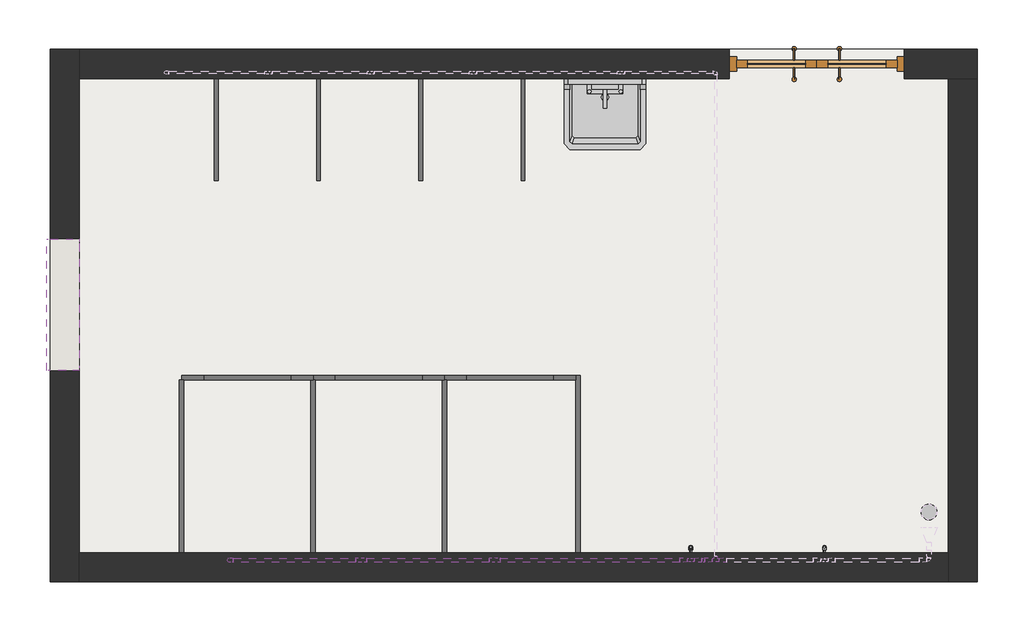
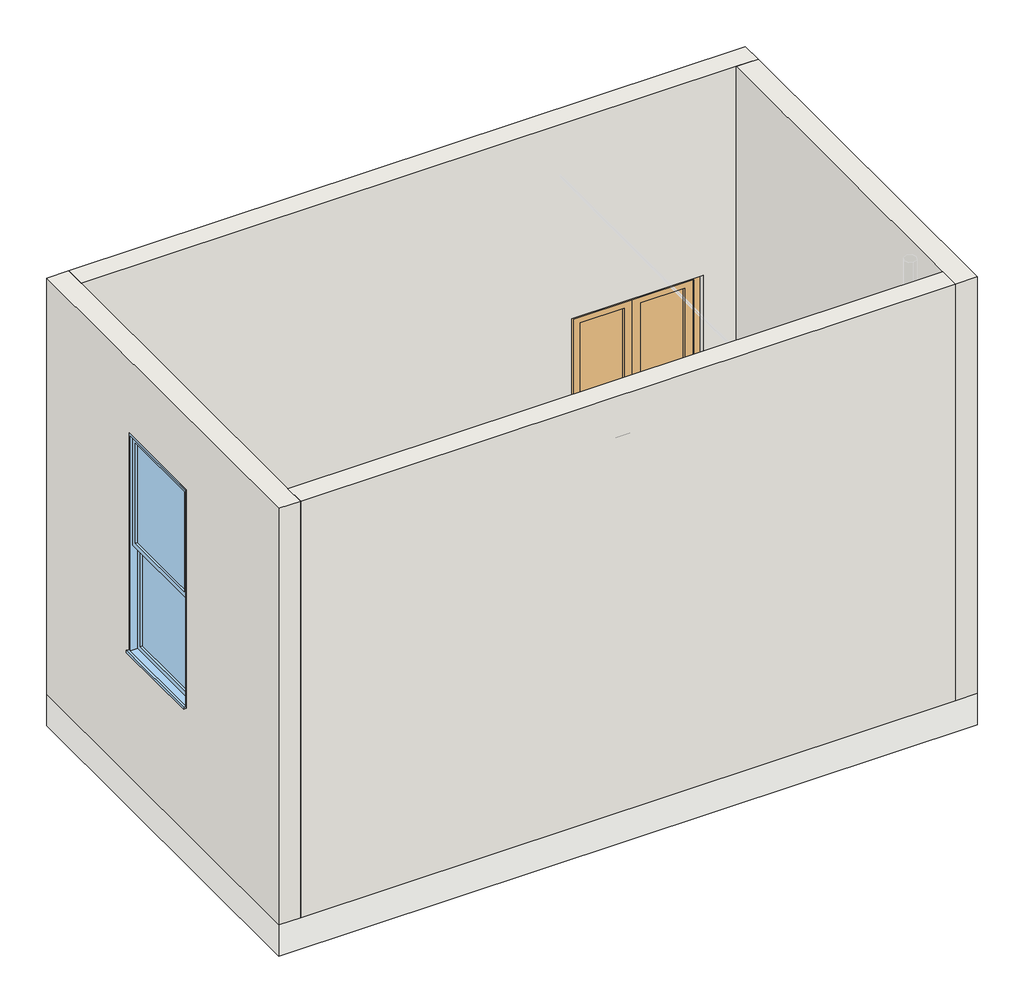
# One storey, part 1 of 2: 15 pipe segments, 14 pipe fittings, 8 proxies, 4 walls, 1 door, 1 flow terminal, 1 slab, 1 window.
"""IFC4 building model written with IfcOpenShell, lengths in millimetres."""

from ifc_helpers import new_model, si_unit, point, frame, frame_2d, origin, origin_with_axes, place, context, project, spatial, polyline, circle_curve, trimmed, segment, composite_curve, outline, extrude, faceted_brep, transform, mapped, element, save
from components import specialty_equipment_fa7288dd, specialty_equipment_3a5ac14c, proxy_20_x_300_x_1300mm_90f93d7e, door_1200_x_2100mm_28484c29, flow_terminal_560_mmx485_mm_975d8588, pipe_fitting_6e5039bf, pipe_fitting_1874c2ef, pipe_fitting_77111f3f, pipe_fitting_ec0e7028, pipe_fitting_cd75d731, pipe_fitting_eb17f4a4, window_900_x_2100mm_6ae3658a

model = new_model("IFC4")

# Units and contexts
model_context = context("Model", 3, world=origin())
ifc_project = project(units=[si_unit("LENGTHUNIT", "METRE", prefix="MILLI")], contexts=[model_context])

# Site, building, storey
site = spatial("IfcSite", under=ifc_project)
building = spatial("IfcBuilding", under=site)
storey = spatial("IfcBuildingStorey", under=building, Name="标高 1", Elevation=0.0)

# Proxies
placement = place(None, origin())
specialty_equipment_shape = specialty_equipment_fa7288dd(model_context)
element("IfcBuildingElementProxy", 1, Name="厕所隔断 1 3D : 中间或靠墙(落地)", ObjectType="厕所隔断 1 3D : 中间或靠墙(落地)", at=placement, inside=storey, context=model_context, shape_type="MappedRepresentation", body=[
    mapped(specialty_equipment_shape, transform((-14222.099061, -8689.1483569, 0.0), x_axis=(1.0, 0.0, 0.0), y_axis=(0.0, 1.0, 0.0), z_axis=(0.0, 0.0, 1.0))),
])
element("IfcBuildingElementProxy", 2, Name="厕所隔断 1 3D : 中间或靠墙(落地)", ObjectType="厕所隔断 1 3D : 中间或靠墙(落地)", at=placement, inside=storey, context=model_context, shape_type="MappedRepresentation", body=[
    mapped(specialty_equipment_shape, transform((-13322.099061, -8689.1483569, 0.0), x_axis=(1.0, 0.0, 0.0), y_axis=(0.0, 1.0, 0.0), z_axis=(0.0, 0.0, 1.0))),
])
element("IfcBuildingElementProxy", 3, Name="厕所隔断 1 3D : 中间或靠墙(落地)", ObjectType="厕所隔断 1 3D : 中间或靠墙(落地)", at=placement, inside=storey, context=model_context, shape_type="MappedRepresentation", body=[
    mapped(specialty_equipment_shape, transform((-12422.099061, -8689.1483569, 0.0), x_axis=(1.0, 0.0, 0.0), y_axis=(0.0, 1.0, 0.0), z_axis=(0.0, 0.0, 1.0))),
])
specialty_equipment_2_shape = specialty_equipment_3a5ac14c(model_context)
element("IfcBuildingElementProxy", 4, Name="厕所隔断 4 3D : 末端(落地)", ObjectType="厕所隔断 4 3D : 末端(落地)", at=placement, inside=storey, context=model_context, shape_type="MappedRepresentation", body=[
    mapped(specialty_equipment_2_shape, transform((-11507.099061, -8689.1483569, 0.0), x_axis=(1.0, 0.0, 0.0), y_axis=(0.0, 1.0, 0.0), z_axis=(0.0, 0.0, 1.0))),
])
proxy_20_x_300_x_1300mm_shape = proxy_20_x_300_x_1300mm_90f93d7e(model_context)
element("IfcBuildingElementProxy", 5, Name="盥洗室隔断 3 3D : 20 x 300 x 1300mm", ObjectType="盥洗室隔断 3 3D : 20 x 300 x 1300mm", at=placement, inside=storey, context=model_context, shape_type="MappedRepresentation", body=[
    mapped(proxy_20_x_300_x_1300mm_shape, transform((-14634.599061, -5239.1483569, 0.0), x_axis=(-1.0, 0.0, 0.0), y_axis=(0.0, -1.0, 0.0), z_axis=(0.0, 0.0, 1.0))),
])
element("IfcBuildingElementProxy", 6, Name="盥洗室隔断 3 3D : 20 x 300 x 1300mm", ObjectType="盥洗室隔断 3 3D : 20 x 300 x 1300mm", at=placement, inside=storey, context=model_context, shape_type="MappedRepresentation", body=[
    mapped(proxy_20_x_300_x_1300mm_shape, transform((-13934.599061, -5239.1483569, 0.0), x_axis=(-1.0, 0.0, 0.0), y_axis=(0.0, -1.0, 0.0), z_axis=(0.0, 0.0, 1.0))),
])
element("IfcBuildingElementProxy", 7, Name="盥洗室隔断 3 3D : 20 x 300 x 1300mm", ObjectType="盥洗室隔断 3 3D : 20 x 300 x 1300mm", at=placement, inside=storey, context=model_context, shape_type="MappedRepresentation", body=[
    mapped(proxy_20_x_300_x_1300mm_shape, transform((-13234.599061, -5239.1483569, 0.0), x_axis=(-1.0, 0.0, 0.0), y_axis=(0.0, -1.0, 0.0), z_axis=(0.0, 0.0, 1.0))),
])
element("IfcBuildingElementProxy", 8, Name="盥洗室隔断 3 3D : 20 x 300 x 1300mm", ObjectType="盥洗室隔断 3 3D : 20 x 300 x 1300mm", at=placement, inside=storey, context=model_context, shape_type="MappedRepresentation", body=[
    mapped(proxy_20_x_300_x_1300mm_shape, transform((-12534.599061, -5239.1483569, 0.0), x_axis=(-1.0, 0.0, 0.0), y_axis=(0.0, -1.0, 0.0), z_axis=(0.0, 0.0, 1.0))),
])

# Door
door_1200_x_2100mm_shape = door_1200_x_2100mm_28484c29(model_context)
element("IfcDoor", 9, ObjectType="双面嵌板玻璃门 : 1200 x 2100mm", at=placement, inside=storey, context=model_context, shape_type="MappedRepresentation", body=[
    mapped(door_1200_x_2100mm_shape, transform((-10647.099061, -5239.1483569, 0.0), x_axis=(-1.0, 0.0, 0.0), y_axis=(0.0, -1.0, 0.0), z_axis=(0.0, 0.0, 1.0))),
])

# Flow terminal
flow_terminal_560_mmx485_mm_shape = flow_terminal_560_mmx485_mm_975d8588(model_context)
element("IfcFlowTerminal", 10, ObjectType="洗涤池 - 服务用 : 560 mmx485 mm", at=placement, inside=storey, context=model_context, shape_type="MappedRepresentation", body=[
    mapped(flow_terminal_560_mmx485_mm_shape, transform((-12097.099061, -5339.1483569, 800.0), x_axis=(1.0, 0.0, 0.0), y_axis=(0.0, 0.0, 1.0), z_axis=(0.0, -1.0, 0.0))),
])

# Pipe fittings
pipe_fitting_shape = pipe_fitting_6e5039bf(model_context)
element("IfcPipeFitting", 11, ObjectType="弯头 - 常规 : 标准", at=placement, inside=storey, context=model_context, shape_type="MappedRepresentation", body=[
    mapped(pipe_fitting_shape, transform((-14667.099061, -8639.5483467, 850.0), x_axis=(0.0, -1.0, 0.0), y_axis=(0.0, 0.0, 1.0), z_axis=(-1.0, 0.0, 0.0))),
])
element("IfcPipeFitting", 12, ObjectType="弯头 - 常规 : 标准", at=placement, inside=storey, context=model_context, shape_type="MappedRepresentation", body=[
    mapped(pipe_fitting_shape, transform((-14667.099061, -8639.5483467, 3500.0), x_axis=(0.0, 0.0, 1.0), y_axis=(1.0, 0.0, 0.0), z_axis=(0.0, 1.0, 0.0))),
])
element("IfcPipeFitting", 13, ObjectType="弯头 - 常规 : 标准", at=placement, inside=storey, context=model_context, shape_type="MappedRepresentation", body=[
    mapped(pipe_fitting_shape, transform((-13767.099061, -8639.5483467, 850.0), x_axis=(0.0, -1.0, 0.0), y_axis=(0.0, 0.0, 1.0), z_axis=(-1.0, 0.0, 0.0))),
])
element("IfcPipeFitting", 14, ObjectType="弯头 - 常规 : 标准", at=placement, inside=storey, context=model_context, shape_type="MappedRepresentation", body=[
    mapped(pipe_fitting_shape, transform((-12852.099061, -8639.5483467, 850.0), x_axis=(0.0, -1.0, 0.0), y_axis=(0.0, 0.0, 1.0), z_axis=(-1.0, 0.0, 0.0))),
])
pipe_fitting_2_shape = pipe_fitting_1874c2ef(model_context)
element("IfcPipeFitting", 15, ObjectType="T 形三通 - 常规 : 标准", at=placement, inside=storey, context=model_context, shape_type="MappedRepresentation", body=[
    mapped(pipe_fitting_2_shape, transform((-11510.399061, -8639.5483467, 3500.0), x_axis=(1.0, 0.0, 0.0), y_axis=(0.0, 0.0, 1.0), z_axis=(0.0, -1.0, 0.0))),
])
element("IfcPipeFitting", 16, ObjectType="T 形三通 - 常规 : 标准", at=placement, inside=storey, context=model_context, shape_type="MappedRepresentation", body=[
    mapped(pipe_fitting_2_shape, transform((-11339.149053, -8639.5483467, 3500.0), x_axis=(1.0, 0.0, 0.0), y_axis=(0.0, -1.0, 0.0), z_axis=(0.0, 0.0, -1.0))),
])
pipe_fitting_3_shape = pipe_fitting_77111f3f(model_context)
element("IfcPipeFitting", 17, ObjectType="弯头 - 常规 : 标准", at=placement, inside=storey, context=model_context, shape_type="MappedRepresentation", body=[
    mapped(pipe_fitting_3_shape, transform((-11510.399061, -8639.5483467, 575.95), x_axis=(0.0, 0.0, -1.0), y_axis=(0.0, 1.0, 0.0), z_axis=(1.0, 0.0, 0.0))),
])
element("IfcPipeFitting", 18, ObjectType="弯头 - 常规 : 标准", at=placement, inside=storey, context=model_context, shape_type="MappedRepresentation", body=[
    mapped(pipe_fitting_3_shape, transform((-11510.399061, -8551.0483569, 575.95), x_axis=(0.0, 0.0, -1.0), y_axis=(0.0, -1.0, 0.0), z_axis=(-1.0, 0.0, 0.0))),
])
pipe_fitting_4_shape = pipe_fitting_ec0e7028(model_context)
element("IfcPipeFitting", 19, ObjectType="T 形三通 - 常规 : 标准", at=placement, inside=storey, context=model_context, shape_type="MappedRepresentation", body=[
    mapped(pipe_fitting_4_shape, transform((-13767.099061, -8639.5483467, 3500.0), x_axis=(1.0, 0.0, 0.0), y_axis=(0.0, 0.0, 1.0), z_axis=(0.0, -1.0, 0.0))),
])
element("IfcPipeFitting", 20, ObjectType="T 形三通 - 常规 : 标准", at=placement, inside=storey, context=model_context, shape_type="MappedRepresentation", body=[
    mapped(pipe_fitting_4_shape, transform((-12852.099061, -8639.5483467, 3500.0), x_axis=(-1.0, 0.0, 0.0), y_axis=(0.0, 0.0, 1.0), z_axis=(0.0, 1.0, 0.0))),
])
pipe_fitting_5_shape = pipe_fitting_cd75d731(model_context)
element("IfcPipeFitting", 21, ObjectType="过渡件 - 常规 : 标准", at=placement, inside=storey, context=model_context, shape_type="MappedRepresentation", body=[
    mapped(pipe_fitting_5_shape, transform((-11535.399061, -8639.5483467, 3500.0), x_axis=(-1.0, 0.0, 0.0), y_axis=(0.0, -1.0, 0.0), z_axis=(0.0, 0.0, 1.0))),
])
element("IfcPipeFitting", 22, ObjectType="过渡件 - 常规 : 标准", at=placement, inside=storey, context=model_context, shape_type="MappedRepresentation", body=[
    mapped(pipe_fitting_5_shape, transform((-11314.149053, -8639.5483467, 3500.0), x_axis=(1.0, 0.0, 0.0), y_axis=(0.0, 1.0, 0.0), z_axis=(0.0, 0.0, 1.0))),
])
element("IfcPipeFitting", 23, ObjectType="过渡件 - 常规 : 标准", at=placement, inside=storey, context=model_context, shape_type="MappedRepresentation", body=[
    mapped(pipe_fitting_5_shape, transform((-11364.149053, -8639.5483467, 3500.0), x_axis=(-1.0, 0.0, 0.0), y_axis=(0.0, -1.0, 0.0), z_axis=(0.0, 0.0, 1.0))),
])
pipe_fitting_6_shape = pipe_fitting_eb17f4a4(model_context)
element("IfcPipeFitting", 24, ObjectType="过渡件 - 常规 : 标准", at=placement, inside=storey, context=model_context, shape_type="MappedRepresentation", body=[
    mapped(pipe_fitting_6_shape, transform((-11485.399061, -8639.5483467, 3500.0), x_axis=(1.0, 0.0, 0.0), y_axis=(0.0, 1.0, 0.0), z_axis=(0.0, 0.0, 1.0))),
])

# Pipe segments
element("IfcPipeSegment", 25, ObjectType="标准", at=placement, inside=storey, context=model_context, shape_type="SweptSolid", body=[
    extrude(outline(composite_curve([segment(trimmed(circle_curve(frame_2d((-8639.5483467, 3500.0)), 14.0), [point((-8625.5483467, 3500.0))], [point((-8639.5483467, 3486.0))], False, "CARTESIAN"), True, "CONTINUOUS"), segment(trimmed(circle_curve(frame_2d((-8639.5483467, 3500.0)), 14.0), [point((-8639.5483467, 3486.0))], [point((-8653.5483467, 3500.0))], False, "CARTESIAN"), True, "CONTINUOUS"), segment(trimmed(circle_curve(frame_2d((-8639.5483467, 3500.0)), 14.0), [point((-8653.5483467, 3500.0))], [point((-8639.5483467, 3514.0))], False, "CARTESIAN"), True, "CONTINUOUS"), segment(trimmed(circle_curve(frame_2d((-8639.5483467, 3500.0)), 14.0), [point((-8639.5483467, 3514.0))], [point((-8625.5483467, 3500.0))], False, "CARTESIAN"), True, "CONTINUOUS")], self_intersect=False)), frame((-13729.099061, 0.0, 0.0), z_axis=(1.0, 0.0, 0.0), x_axis=(0.0, 1.0, 0.0)), (0.0, 0.0, 1.0), 839.0),
])
element("IfcPipeSegment", 26, ObjectType="标准", at=placement, inside=storey, context=model_context, shape_type="SweptSolid", body=[
    extrude(outline(composite_curve([segment(trimmed(circle_curve(frame_2d((850.0, -14667.099061)), 14.0), [point((850.0, -14681.099061))], [point((836.0, -14667.099061))], False, "CARTESIAN"), True, "CONTINUOUS"), segment(trimmed(circle_curve(frame_2d((850.0, -14667.099061)), 14.0), [point((836.0, -14667.099061))], [point((850.0, -14653.099061))], False, "CARTESIAN"), True, "CONTINUOUS"), segment(trimmed(circle_curve(frame_2d((850.0, -14667.099061)), 14.0), [point((850.0, -14653.099061))], [point((864.0, -14667.099061))], False, "CARTESIAN"), True, "CONTINUOUS"), segment(trimmed(circle_curve(frame_2d((850.0, -14667.099061)), 14.0), [point((864.0, -14667.099061))], [point((850.0, -14681.099061))], False, "CARTESIAN"), True, "CONTINUOUS")], self_intersect=False)), frame((0.0, -8614.5483467, 0.0), z_axis=(0.0, 1.0, 0.0), x_axis=(0.0, 0.0, 1.0)), (0.0, 0.0, 1.0), 25.3999898),
])
element("IfcPipeSegment", 27, ObjectType="标准", at=placement, inside=storey, context=model_context, shape_type="SweptSolid", body=[
    extrude(outline(composite_curve([segment(trimmed(circle_curve(frame_2d((-14667.099061, -8639.5483467)), 14.0), [point((-14681.099061, -8639.5483467))], [point((-14667.099061, -8625.5483467))], False, "CARTESIAN"), True, "CONTINUOUS"), segment(trimmed(circle_curve(frame_2d((-14667.099061, -8639.5483467)), 14.0), [point((-14667.099061, -8625.5483467))], [point((-14653.099061, -8639.5483467))], False, "CARTESIAN"), True, "CONTINUOUS"), segment(trimmed(circle_curve(frame_2d((-14667.099061, -8639.5483467)), 14.0), [point((-14653.099061, -8639.5483467))], [point((-14667.099061, -8653.5483467))], False, "CARTESIAN"), True, "CONTINUOUS"), segment(trimmed(circle_curve(frame_2d((-14667.099061, -8639.5483467)), 14.0), [point((-14667.099061, -8653.5483467))], [point((-14681.099061, -8639.5483467))], False, "CARTESIAN"), True, "CONTINUOUS")], self_intersect=False)), frame((0.0, 0.0, 875.0), z_axis=(0.0, 0.0, 1.0), x_axis=(1.0, 0.0, 0.0)), (0.0, 0.0, 1.0), 2600.0),
])
element("IfcPipeSegment", 28, ObjectType="标准", at=placement, inside=storey, context=model_context, shape_type="SweptSolid", body=[
    extrude(outline(composite_curve([segment(trimmed(circle_curve(frame_2d((-8639.5483467, 3500.0)), 14.0), [point((-8653.5483467, 3500.0))], [point((-8639.5483467, 3514.0))], False, "CARTESIAN"), True, "CONTINUOUS"), segment(trimmed(circle_curve(frame_2d((-8639.5483467, 3500.0)), 14.0), [point((-8639.5483467, 3514.0))], [point((-8625.5483467, 3500.0))], False, "CARTESIAN"), True, "CONTINUOUS"), segment(trimmed(circle_curve(frame_2d((-8639.5483467, 3500.0)), 14.0), [point((-8625.5483467, 3500.0))], [point((-8639.5483467, 3486.0))], False, "CARTESIAN"), True, "CONTINUOUS"), segment(trimmed(circle_curve(frame_2d((-8639.5483467, 3500.0)), 14.0), [point((-8639.5483467, 3486.0))], [point((-8653.5483467, 3500.0))], False, "CARTESIAN"), True, "CONTINUOUS")], self_intersect=False)), frame((-14642.099061, 0.0, 0.0), z_axis=(1.0, 0.0, 0.0), x_axis=(0.0, 1.0, 0.0)), (0.0, 0.0, 1.0), 837.0),
])
element("IfcPipeSegment", 29, ObjectType="标准", at=placement, inside=storey, context=model_context, shape_type="SweptSolid", body=[
    extrude(outline(composite_curve([segment(trimmed(circle_curve(frame_2d((850.0, -13767.099061)), 14.0), [point((850.0, -13781.099061))], [point((836.0, -13767.099061))], False, "CARTESIAN"), True, "CONTINUOUS"), segment(trimmed(circle_curve(frame_2d((850.0, -13767.099061)), 14.0), [point((836.0, -13767.099061))], [point((850.0, -13753.099061))], False, "CARTESIAN"), True, "CONTINUOUS"), segment(trimmed(circle_curve(frame_2d((850.0, -13767.099061)), 14.0), [point((850.0, -13753.099061))], [point((864.0, -13767.099061))], False, "CARTESIAN"), True, "CONTINUOUS"), segment(trimmed(circle_curve(frame_2d((850.0, -13767.099061)), 14.0), [point((864.0, -13767.099061))], [point((850.0, -13781.099061))], False, "CARTESIAN"), True, "CONTINUOUS")], self_intersect=False)), frame((0.0, -8614.5483467, 0.0), z_axis=(0.0, 1.0, 0.0), x_axis=(0.0, 0.0, 1.0)), (0.0, 0.0, 1.0), 25.3999898),
])
element("IfcPipeSegment", 30, ObjectType="标准", at=placement, inside=storey, context=model_context, shape_type="SweptSolid", body=[
    extrude(outline(composite_curve([segment(trimmed(circle_curve(frame_2d((-13767.099061, -8639.5483467)), 14.0), [point((-13781.099061, -8639.5483467))], [point((-13767.099061, -8625.5483467))], False, "CARTESIAN"), True, "CONTINUOUS"), segment(trimmed(circle_curve(frame_2d((-13767.099061, -8639.5483467)), 14.0), [point((-13767.099061, -8625.5483467))], [point((-13753.099061, -8639.5483467))], False, "CARTESIAN"), True, "CONTINUOUS"), segment(trimmed(circle_curve(frame_2d((-13767.099061, -8639.5483467)), 14.0), [point((-13753.099061, -8639.5483467))], [point((-13767.099061, -8653.5483467))], False, "CARTESIAN"), True, "CONTINUOUS"), segment(trimmed(circle_curve(frame_2d((-13767.099061, -8639.5483467)), 14.0), [point((-13767.099061, -8653.5483467))], [point((-13781.099061, -8639.5483467))], False, "CARTESIAN"), True, "CONTINUOUS")], self_intersect=False)), frame((0.0, 0.0, 875.0), z_axis=(0.0, 0.0, 1.0), x_axis=(1.0, 0.0, 0.0)), (0.0, 0.0, 1.0), 2587.0),
])
element("IfcPipeSegment", 31, ObjectType="标准", at=placement, inside=storey, context=model_context, shape_type="SweptSolid", body=[
    extrude(outline(composite_curve([segment(trimmed(circle_curve(frame_2d((850.0, -12852.099061)), 14.0), [point((850.0, -12866.099061))], [point((836.0, -12852.099061))], False, "CARTESIAN"), True, "CONTINUOUS"), segment(trimmed(circle_curve(frame_2d((850.0, -12852.099061)), 14.0), [point((836.0, -12852.099061))], [point((850.0, -12838.099061))], False, "CARTESIAN"), True, "CONTINUOUS"), segment(trimmed(circle_curve(frame_2d((850.0, -12852.099061)), 14.0), [point((850.0, -12838.099061))], [point((864.0, -12852.099061))], False, "CARTESIAN"), True, "CONTINUOUS"), segment(trimmed(circle_curve(frame_2d((850.0, -12852.099061)), 14.0), [point((864.0, -12852.099061))], [point((850.0, -12866.099061))], False, "CARTESIAN"), True, "CONTINUOUS")], self_intersect=False)), frame((0.0, -8614.5483467, 0.0), z_axis=(0.0, 1.0, 0.0), x_axis=(0.0, 0.0, 1.0)), (0.0, 0.0, 1.0), 25.3999898),
])
element("IfcPipeSegment", 32, ObjectType="标准", at=placement, inside=storey, context=model_context, shape_type="SweptSolid", body=[
    extrude(outline(composite_curve([segment(trimmed(circle_curve(frame_2d((-12852.099061, -8639.5483467)), 14.0), [point((-12838.099061, -8639.5483467))], [point((-12852.099061, -8653.5483467))], False, "CARTESIAN"), True, "CONTINUOUS"), segment(trimmed(circle_curve(frame_2d((-12852.099061, -8639.5483467)), 14.0), [point((-12852.099061, -8653.5483467))], [point((-12866.099061, -8639.5483467))], False, "CARTESIAN"), True, "CONTINUOUS"), segment(trimmed(circle_curve(frame_2d((-12852.099061, -8639.5483467)), 14.0), [point((-12866.099061, -8639.5483467))], [point((-12852.099061, -8625.5483467))], False, "CARTESIAN"), True, "CONTINUOUS"), segment(trimmed(circle_curve(frame_2d((-12852.099061, -8639.5483467)), 14.0), [point((-12852.099061, -8625.5483467))], [point((-12838.099061, -8639.5483467))], False, "CARTESIAN"), True, "CONTINUOUS")], self_intersect=False)), frame((0.0, 0.0, 875.0), z_axis=(0.0, 0.0, 1.0), x_axis=(1.0, 0.0, 0.0)), (0.0, 0.0, 1.0), 2587.0),
])
element("IfcPipeSegment", 33, ObjectType="标准", at=placement, inside=storey, context=model_context, shape_type="SweptSolid", body=[
    extrude(outline(composite_curve([segment(trimmed(circle_curve(frame_2d((-8639.5483467, 3500.0)), 14.0), [point((-8625.5483467, 3500.0))], [point((-8639.5483467, 3486.0))], False, "CARTESIAN"), True, "CONTINUOUS"), segment(trimmed(circle_curve(frame_2d((-8639.5483467, 3500.0)), 14.0), [point((-8639.5483467, 3486.0))], [point((-8653.5483467, 3500.0))], False, "CARTESIAN"), True, "CONTINUOUS"), segment(trimmed(circle_curve(frame_2d((-8639.5483467, 3500.0)), 14.0), [point((-8653.5483467, 3500.0))], [point((-8639.5483467, 3514.0))], False, "CARTESIAN"), True, "CONTINUOUS"), segment(trimmed(circle_curve(frame_2d((-8639.5483467, 3500.0)), 14.0), [point((-8639.5483467, 3514.0))], [point((-8625.5483467, 3500.0))], False, "CARTESIAN"), True, "CONTINUOUS")], self_intersect=False)), frame((-12814.099061, 0.0, 0.0), z_axis=(1.0, 0.0, 0.0), x_axis=(0.0, 1.0, 0.0)), (0.0, 0.0, 1.0), 1227.7),
])
element("IfcPipeSegment", 34, ObjectType="标准", at=placement, inside=storey, context=model_context, shape_type="SweptSolid", body=[
    extrude(outline(composite_curve([segment(trimmed(circle_curve(frame_2d((-11510.399061, -8551.0483569)), 7.5), [point((-11502.899061, -8551.0483569))], [point((-11510.399061, -8558.5483569))], False, "CARTESIAN"), True, "CONTINUOUS"), segment(trimmed(circle_curve(frame_2d((-11510.399061, -8551.0483569)), 7.5), [point((-11510.399061, -8558.5483569))], [point((-11517.899061, -8551.0483569))], False, "CARTESIAN"), True, "CONTINUOUS"), segment(trimmed(circle_curve(frame_2d((-11510.399061, -8551.0483569)), 7.5), [point((-11517.899061, -8551.0483569))], [point((-11510.399061, -8543.5483569))], False, "CARTESIAN"), True, "CONTINUOUS"), segment(trimmed(circle_curve(frame_2d((-11510.399061, -8551.0483569)), 7.5), [point((-11510.399061, -8543.5483569))], [point((-11502.899061, -8551.0483569))], False, "CARTESIAN"), True, "CONTINUOUS")], self_intersect=False)), frame((0.0, 0.0, 591.8589844), z_axis=(0.0, 0.0, 1.0), x_axis=(1.0, 0.0, 0.0)), (0.0, 0.0, 1.0), 189.0910156),
])
element("IfcPipeSegment", 35, ObjectType="标准", at=placement, inside=storey, context=model_context, shape_type="SweptSolid", body=[
    extrude(outline(composite_curve([segment(trimmed(circle_curve(frame_2d((-10595.399061, -8551.0483569)), 7.5), [point((-10587.899061, -8551.0483569))], [point((-10595.399061, -8558.5483569))], False, "CARTESIAN"), True, "CONTINUOUS"), segment(trimmed(circle_curve(frame_2d((-10595.399061, -8551.0483569)), 7.5), [point((-10595.399061, -8558.5483569))], [point((-10602.899061, -8551.0483569))], False, "CARTESIAN"), True, "CONTINUOUS"), segment(trimmed(circle_curve(frame_2d((-10595.399061, -8551.0483569)), 7.5), [point((-10602.899061, -8551.0483569))], [point((-10595.399061, -8543.5483569))], False, "CARTESIAN"), True, "CONTINUOUS"), segment(trimmed(circle_curve(frame_2d((-10595.399061, -8551.0483569)), 7.5), [point((-10595.399061, -8543.5483569))], [point((-10587.899061, -8551.0483569))], False, "CARTESIAN"), True, "CONTINUOUS")], self_intersect=False)), frame((0.0, 0.0, 591.8589844), z_axis=(0.0, 0.0, 1.0), x_axis=(1.0, 0.0, 0.0)), (0.0, 0.0, 1.0), 189.0910156),
])
element("IfcPipeSegment", 36, ObjectType="标准", at=placement, inside=storey, context=model_context, shape_type="SweptSolid", body=[
    extrude(outline(composite_curve([segment(trimmed(circle_curve(frame_2d((575.95, -11510.399061)), 7.5), [point((575.95, -11502.899061))], [point((583.45, -11510.399061))], False, "CARTESIAN"), True, "CONTINUOUS"), segment(trimmed(circle_curve(frame_2d((575.95, -11510.399061)), 7.5), [point((583.45, -11510.399061))], [point((575.95, -11517.899061))], False, "CARTESIAN"), True, "CONTINUOUS"), segment(trimmed(circle_curve(frame_2d((575.95, -11510.399061)), 7.5), [point((575.95, -11517.899061))], [point((568.45, -11510.399061))], False, "CARTESIAN"), True, "CONTINUOUS"), segment(trimmed(circle_curve(frame_2d((575.95, -11510.399061)), 7.5), [point((568.45, -11510.399061))], [point((575.95, -11502.899061))], False, "CARTESIAN"), True, "CONTINUOUS")], self_intersect=False)), frame((0.0, -8623.6393623, 0.0), z_axis=(0.0, 1.0, 0.0), x_axis=(0.0, 0.0, 1.0)), (0.0, 0.0, 1.0), 56.6820211),
])
element("IfcPipeSegment", 37, ObjectType="标准", at=placement, inside=storey, context=model_context, shape_type="SweptSolid", body=[
    extrude(outline(composite_curve([segment(trimmed(circle_curve(frame_2d((575.95, -10595.399061)), 7.5), [point((575.95, -10587.899061))], [point((583.45, -10595.399061))], False, "CARTESIAN"), True, "CONTINUOUS"), segment(trimmed(circle_curve(frame_2d((575.95, -10595.399061)), 7.5), [point((583.45, -10595.399061))], [point((575.95, -10602.899061))], False, "CARTESIAN"), True, "CONTINUOUS"), segment(trimmed(circle_curve(frame_2d((575.95, -10595.399061)), 7.5), [point((575.95, -10602.899061))], [point((568.45, -10595.399061))], False, "CARTESIAN"), True, "CONTINUOUS"), segment(trimmed(circle_curve(frame_2d((575.95, -10595.399061)), 7.5), [point((568.45, -10595.399061))], [point((575.95, -10587.899061))], False, "CARTESIAN"), True, "CONTINUOUS")], self_intersect=False)), frame((0.0, -8623.6393623, 0.0), z_axis=(0.0, 1.0, 0.0), x_axis=(0.0, 0.0, 1.0)), (0.0, 0.0, 1.0), 56.6820211),
])
element("IfcPipeSegment", 38, ObjectType="标准", at=placement, inside=storey, context=model_context, shape_type="SweptSolid", body=[
    extrude(outline(composite_curve([segment(trimmed(circle_curve(frame_2d((-11510.399061, -8639.5483467)), 7.5), [point((-11502.899061, -8639.5483467))], [point((-11510.399061, -8647.0483467))], False, "CARTESIAN"), True, "CONTINUOUS"), segment(trimmed(circle_curve(frame_2d((-11510.399061, -8639.5483467)), 7.5), [point((-11510.399061, -8647.0483467))], [point((-11517.899061, -8639.5483467))], False, "CARTESIAN"), True, "CONTINUOUS"), segment(trimmed(circle_curve(frame_2d((-11510.399061, -8639.5483467)), 7.5), [point((-11517.899061, -8639.5483467))], [point((-11510.399061, -8632.0483467))], False, "CARTESIAN"), True, "CONTINUOUS"), segment(trimmed(circle_curve(frame_2d((-11510.399061, -8639.5483467)), 7.5), [point((-11510.399061, -8632.0483467))], [point((-11502.899061, -8639.5483467))], False, "CARTESIAN"), True, "CONTINUOUS")], self_intersect=False)), frame((0.0, 0.0, 591.8589844), z_axis=(0.0, 0.0, 1.0), x_axis=(1.0, 0.0, 0.0)), (0.0, 0.0, 1.0), 2883.1410156),
])
element("IfcPipeSegment", 39, ObjectType="标准", at=placement, inside=storey, context=model_context, shape_type="SweptSolid", body=[
    extrude(outline(composite_curve([segment(trimmed(circle_curve(frame_2d((-8639.5483467, 3500.0)), 14.0), [point((-8625.5483467, 3500.0))], [point((-8639.5483467, 3486.0))], False, "CARTESIAN"), True, "CONTINUOUS"), segment(trimmed(circle_curve(frame_2d((-8639.5483467, 3500.0)), 14.0), [point((-8639.5483467, 3486.0))], [point((-8653.5483467, 3500.0))], False, "CARTESIAN"), True, "CONTINUOUS"), segment(trimmed(circle_curve(frame_2d((-8639.5483467, 3500.0)), 14.0), [point((-8653.5483467, 3500.0))], [point((-8639.5483467, 3514.0))], False, "CARTESIAN"), True, "CONTINUOUS"), segment(trimmed(circle_curve(frame_2d((-8639.5483467, 3500.0)), 14.0), [point((-8639.5483467, 3514.0))], [point((-8625.5483467, 3500.0))], False, "CARTESIAN"), True, "CONTINUOUS")], self_intersect=False)), frame((-11434.399061, 0.0, 0.0), z_axis=(1.0, 0.0, 0.0), x_axis=(0.0, 1.0, 0.0)), (0.0, 0.0, 1.0), 19.250008),
])

# Slab
element("IfcSlab", 40, ObjectType="常规 - 300mm", at=placement, inside=storey, context=model_context, shape_type="SweptSolid", body=[
    extrude(outline(polyline([(-15897.099061, -5139.1483569), (-9547.099061, -5139.1483569), (-9547.099061, -8789.1483569), (-15897.099061, -8789.1483569), (-15897.099061, -5139.1483569)])), frame((0.0, 0.0, -300.0), z_axis=(0.0, 0.0, 1.0), x_axis=(1.0, 0.0, 0.0)), (0.0, 0.0, 1.0), 300.0),
])

# Walls
element("IfcWall", 41, ObjectType="常规 - 200mm", at=placement, inside=storey, context=model_context, shape_type="Brep", body=[
    faceted_brep([(-15697.099061, -8789.1483569, 0.0), (-15697.099061, -8589.1483569, 0.0), (-15697.099061, -5339.1483569, 0.0), (-15697.099061, -5139.1483569, 0.0), (-15697.099061, -5139.1483569, 4000.0), (-15697.099061, -5339.1483569, 4000.0), (-15697.099061, -8589.1483569, 4000.0), (-15697.099061, -8789.1483569, 4000.0), (-15697.099061, -6439.1483569, 3300.0), (-15697.099061, -6439.1483569, 1200.0), (-15697.099061, -7339.1483569, 1200.0), (-15697.099061, -7339.1483569, 3300.0), (-15897.099061, -8789.1483569, 0.0), (-15897.099061, -8789.1483569, 4000.0), (-15897.099061, -5139.1483569, 4000.0), (-15897.099061, -5139.1483569, 0.0), (-15897.099061, -6439.1483569, 3300.0), (-15897.099061, -7339.1483569, 3300.0), (-15897.099061, -7339.1483569, 1200.0), (-15897.099061, -6439.1483569, 1200.0)], [[[0, 1, 2, 3, 4, 5, 6, 7], [8, 9, 10, 11]], [[12, 13, 14, 15], [16, 17, 18, 19]], [[3, 2, 1, 0, 12, 15]], [[7, 6, 5, 4, 14, 13]], [[4, 3, 15, 14]], [[0, 7, 13, 12]], [[9, 8, 16, 19]], [[10, 9, 19, 18]], [[11, 10, 18, 17]], [[8, 11, 17, 16]]]),
])
element("IfcWall", 42, ObjectType="常规 - 200mm", at=placement, inside=storey, context=model_context, shape_type="Brep", body=[
    faceted_brep([(-9547.099061, -5339.1483569, 4000.0), (-9747.099061, -5339.1483569, 4000.0), (-15697.099061, -5339.1483569, 4000.0), (-15697.099061, -5339.1483569, 0.0), (-11247.099061, -5339.1483569, 0.0), (-11247.099061, -5339.1483569, 2100.0), (-10047.099061, -5339.1483569, 2100.0), (-10047.099061, -5339.1483569, 0.0), (-9747.099061, -5339.1483569, 0.0), (-9547.099061, -5339.1483569, 0.0), (-15697.099061, -5139.1483569, 4000.0), (-9547.099061, -5139.1483569, 4000.0), (-9547.099061, -5139.1483569, 0.0), (-10047.099061, -5139.1483569, 0.0), (-10047.099061, -5139.1483569, 2100.0), (-11247.099061, -5139.1483569, 2100.0), (-11247.099061, -5139.1483569, 0.0), (-15697.099061, -5139.1483569, 0.0)], [[[0, 1, 2, 3, 4, 5, 6, 7, 8, 9]], [[10, 11, 12, 13, 14, 15, 16, 17]], [[3, 17, 16, 4]], [[12, 9, 8, 7, 13]], [[2, 1, 0, 11, 10]], [[3, 2, 10, 17]], [[0, 9, 12, 11]], [[15, 5, 4, 16]], [[5, 15, 14, 6]], [[6, 14, 13, 7]]]),
])
element("IfcWall", 43, ObjectType="常规 - 200mm", at=placement, inside=storey, context=model_context, shape_type="Brep", body=[
    faceted_brep([(-9747.099061, -5339.1483569, 0.0), (-9747.099061, -8589.1483569, 0.0), (-9747.099061, -8789.1483569, 0.0), (-9747.099061, -8789.1483569, 4000.0), (-9747.099061, -8589.1483569, 4000.0), (-9747.099061, -5339.1483569, 4000.0), (-9547.099061, -5339.1483569, 0.0), (-9547.099061, -5339.1483569, 4000.0), (-9547.099061, -8789.1483569, 4000.0), (-9547.099061, -8789.1483569, 0.0)], [[[0, 1, 2, 3, 4, 5]], [[6, 7, 8, 9]], [[2, 1, 0, 6, 9]], [[5, 4, 3, 8, 7]], [[0, 5, 7, 6]], [[3, 2, 9, 8]]]),
])
element("IfcWall", 44, ObjectType="常规 - 200mm", at=placement, inside=storey, context=model_context, shape_type="SweptSolid", body=[
    extrude(outline(polyline([(-15697.099061, -8589.1483569), (-9747.099061, -8589.1483569), (-9747.099061, -8789.1483569), (-15697.099061, -8789.1483569), (-15697.099061, -8589.1483569)])), origin_with_axes(), (0.0, 0.0, 1.0), 4000.0),
])

# Window
window_900_x_2100mm_shape = window_900_x_2100mm_6ae3658a(model_context)
element("IfcWindow", 45, ObjectType="上下拉窗1 : 900 x 2100mm", at=placement, inside=storey, context=model_context, shape_type="MappedRepresentation", body=[
    mapped(window_900_x_2100mm_shape, transform((-15797.3375213, -6889.1483569, 900.0), x_axis=(0.0, 1.0, 0.0), y_axis=(-1.0, 0.0, 0.0), z_axis=(0.0, 0.0, 1.0))),
])

save(model, "model.ifc")
